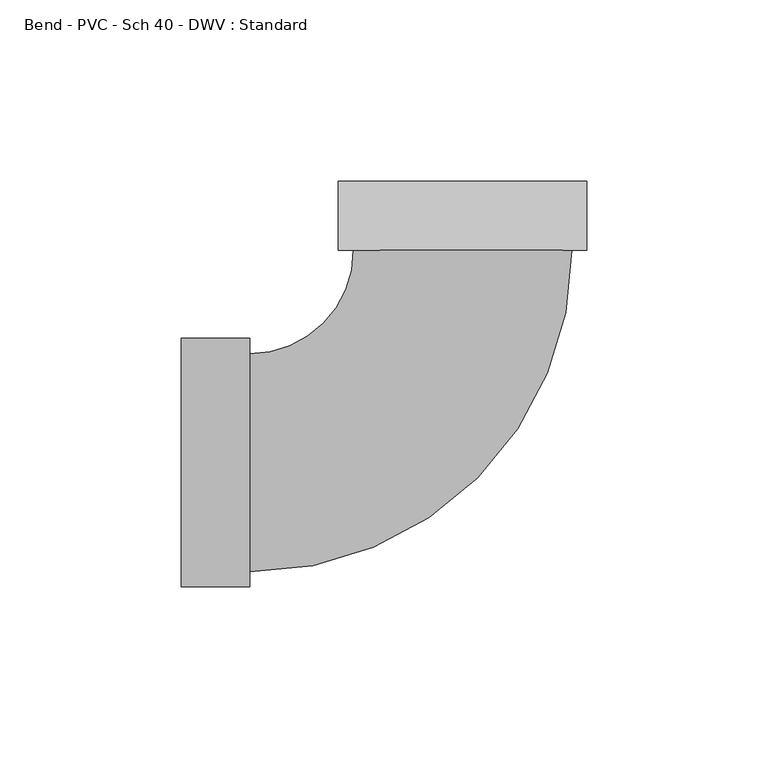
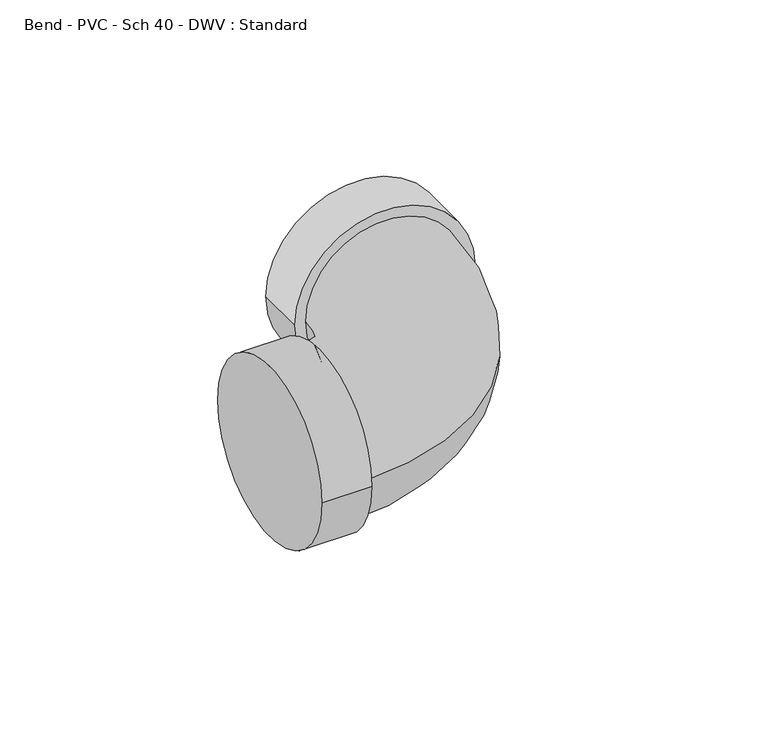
"""IFC4 building model written with IfcOpenShell, lengths in millimetres: pipe fitting geometry, Bend - PVC - Sch 40 - DWV : Standard."""

from ifc_helpers import new_model, si_unit, point, frame, origin, place, context, project, spatial, circle_curve, ellipse_curve, trimmed, source, transform, mapped, element, save
from ifc_brep_helpers import plane_surface, cylinder_surface, revolved_surface, advanced_brep


def bend_pvc_sch_40_dwv_standard_88107920(model_context):
    return source(origin(), model_context, "Body", "AdvancedBrep", [
        advanced_brep(
        [(-77.8002, -34.3154, 0.0), (-77.8002, 34.3154, 0.0), (-58.7502, -34.3154, 0.0), (-58.7502, 34.3154, 0.0), (-58.7502, -30.1625, 0.0), (-58.7502, 30.1625, 0.0), (-30.1634763, 58.7496988, 0.0), (30.1615237, 58.7507012, 0.0), (34.3144237, 58.7507702, 0.0), (-34.3163763, 58.7496298, 0.0), (34.3141072, 77.8007702, 0.0), (-34.3166928, 77.7996298, 0.0)],
        [
            (0, 1, circle_curve(frame((-77.8002, 0.0, 0.0), z_axis=(-1.0, 0.0, 0.0), x_axis=(0.0, 1.0, 0.0)), 34.3154)),
            (1, 0, circle_curve(frame((-77.8002, 0.0, 0.0), z_axis=(-1.0, 0.0, 0.0), x_axis=(0.0, 1.0, 0.0)), 34.3154)),
            (2, 3, circle_curve(frame((-58.7502, 0.0, 0.0), z_axis=(1.0, 0.0, 0.0), x_axis=(0.0, 1.0, 0.0)), 34.3154)),
            (3, 2, circle_curve(frame((-58.7502, 0.0, 0.0), z_axis=(1.0, 0.0, 0.0), x_axis=(0.0, 1.0, 0.0)), 34.3154)),
            (4, 5, circle_curve(frame((-58.7502, 0.0, 0.0), z_axis=(-1.0, 0.0, 0.0), x_axis=(0.0, 1.0, 0.0)), 30.1625)),
            (5, 4, circle_curve(frame((-58.7502, 0.0, 0.0), z_axis=(-1.0, 0.0, 0.0), x_axis=(0.0, 1.0, 0.0)), 30.1625)),
            (0, 2),
            (3, 1),
            (6, 5, circle_curve(frame((-58.7502, 58.7492237, 0.0), z_axis=(0.0, 0.0, -1.0), x_axis=(0.0, -1.0, 0.0)), 28.5867237)),
            (4, 7, circle_curve(frame((-58.7502, 58.7492237, 0.0), z_axis=(0.0, 0.0, 1.0), x_axis=(0.0, -1.0, 0.0)), 88.9117237)),
            (7, 6, circle_curve(frame((-0.0009763, 58.7502, 0.0), z_axis=(1.661750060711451e-05, -0.9999999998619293, 0.0), x_axis=(-0.9999999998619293, -1.661750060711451e-05, 0.0)), 30.1625)),
            (6, 7, circle_curve(frame((-0.0009763, 58.7502, 0.0), z_axis=(1.661750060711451e-05, -0.9999999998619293, 0.0), x_axis=(-0.9999999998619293, -1.661750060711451e-05, 0.0)), 30.1625)),
            (8, 9, circle_curve(frame((-0.0009763, 58.7502, 0.0), z_axis=(1.6617500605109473e-05, -0.9999999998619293, 0.0), x_axis=(-0.9999999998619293, -1.6617500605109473e-05, 0.0)), 34.3154)),
            (9, 8, circle_curve(frame((-0.0009763, 58.7502, 0.0), z_axis=(1.6617500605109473e-05, -0.9999999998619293, 0.0), x_axis=(-0.9999999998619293, -1.6617500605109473e-05, 0.0)), 34.3154)),
            (10, 11, circle_curve(frame((-0.0012928, 77.8002, 0.0), z_axis=(-1.6617500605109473e-05, 0.9999999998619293, 0.0), x_axis=(-0.9999999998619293, -1.6617500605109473e-05, 0.0)), 34.3154)),
            (11, 10, circle_curve(frame((-0.0012928, 77.8002, 0.0), z_axis=(-1.6617500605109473e-05, 0.9999999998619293, 0.0), x_axis=(-0.9999999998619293, -1.6617500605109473e-05, 0.0)), 34.3154)),
            (8, 10),
            (11, 9),
        ],
        [
            plane_surface(frame((-77.8002, 0.0, 0.0), z_axis=(-1.0, 0.0, 0.0), x_axis=(0.0, 0.0, 1.0))),
            plane_surface(frame((-58.7502, 0.0, 0.0), z_axis=(1.0, 0.0, 0.0), x_axis=(0.0, 0.0, 1.0))),
            cylinder_surface(frame((-77.8002, 0.0, 0.0), z_axis=(-1.0, 0.0, 0.0), x_axis=(0.0, 1.0, 0.0)), 34.3154),
            revolved_surface(trimmed(ellipse_curve(frame((-58.7502, 0.0, 0.0), z_axis=(-1.0, 0.0, 0.0), x_axis=(0.0, 1.0, 0.0)), 30.1625, 30.1625), [point((-58.7502, -30.1625, 0.0))], [point((-58.7502, 30.1625, 0.0))], True, "CARTESIAN"), (-58.7502, 58.7492237, 0.0), (0.0, 0.0, 1.0)),
            revolved_surface(trimmed(ellipse_curve(frame((-58.7502, 0.0, 0.0), z_axis=(-1.0, 0.0, 0.0), x_axis=(0.0, 1.0, 0.0)), 30.1625, 30.1625), [point((-58.7502, 30.1625, 0.0))], [point((-58.7502, -30.1625, 0.0))], True, "CARTESIAN"), (-58.7502, 58.7492237, 0.0), (0.0, 0.0, 1.0)),
            plane_surface(frame((-0.0009763, 58.7502, 0.0), z_axis=(1.6617500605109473e-05, -0.9999999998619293, 0.0), x_axis=(0.0, 0.0, 1.0))),
            plane_surface(frame((-0.0012928, 77.8002, 0.0), z_axis=(-1.6617500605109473e-05, 0.9999999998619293, 0.0), x_axis=(0.0, 0.0, 1.0))),
            cylinder_surface(frame((-0.0009763, 58.7502, 0.0), z_axis=(1.6617500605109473e-05, -0.9999999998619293, 0.0), x_axis=(-0.9999999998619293, -1.6617500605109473e-05, 0.0)), 34.3154),
        ],
        [
            (0, [[1, 2]]),
            (1, [[3, 4], [5, 6]]),
            (2, [[-1, 7, -4, 8]]),
            (2, [[-2, -8, -3, -7]]),
            (3, [[9, -5, 10, 11]]),
            (4, [[-9, 12, -10, -6]]),
            (5, [[13, 14], [-11, -12]]),
            (6, [[15, 16]]),
            (7, [[-13, 17, -16, 18]]),
            (7, [[-14, -18, -15, -17]]),
        ],
    ),
    ])


if __name__ == "__main__":
    model = new_model("IFC4")
    model_context = context("Model", 3, world=origin())
    ifc_project = project(units=[si_unit("LENGTHUNIT", "METRE", prefix="MILLI")], contexts=[model_context])
    site = spatial("IfcSite", under=ifc_project)
    building = spatial("IfcBuilding", under=site)
    placement = place(None, origin())
    bend_pvc_sch_40_dwv_standard_shape = bend_pvc_sch_40_dwv_standard_88107920(model_context)
    element("IfcPipeFitting", 1, ObjectType="Bend - PVC - Sch 40 - DWV : Standard", at=placement, inside=building, context=model_context, shape_type="MappedRepresentation", body=[
        mapped(bend_pvc_sch_40_dwv_standard_shape, transform((0.0, 0.0, 0.0), x_axis=(1.0, 0.0, 0.0), y_axis=(0.0, 1.0, 0.0), z_axis=(0.0, 0.0, 1.0))),
    ])
    save(model, "model.ifc")
